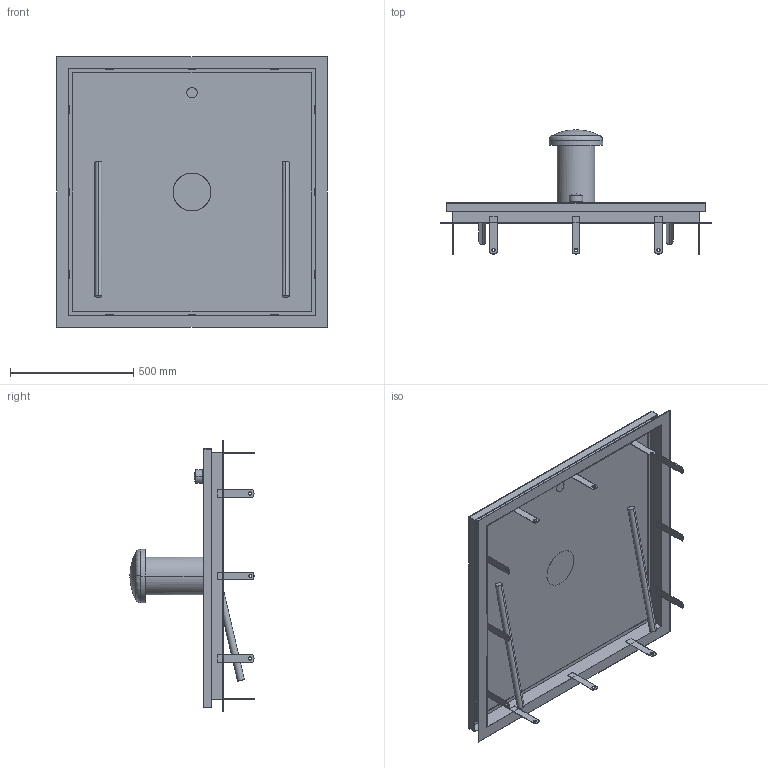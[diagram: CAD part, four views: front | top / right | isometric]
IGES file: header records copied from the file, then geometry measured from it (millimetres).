
Start section:  PTC IGES file: 51504157.igs
Global section: file name: 51504157.igs; native system: Creo Parametric by PTC Inc.; preprocessor: 2019224; author: hrl; organization: Unknown; date: 20200624.151533; units: millimetre
Bounding box: 1100 x 504 x 1100 mm (x, y, z)
Surface area: 3921011.8 mm2 (no closed solid volume)
Topology: 0 solids, 0 shells, 151 faces, 764 edges, 760 vertices
Faces by surface type: bspline 97, revolution 54
